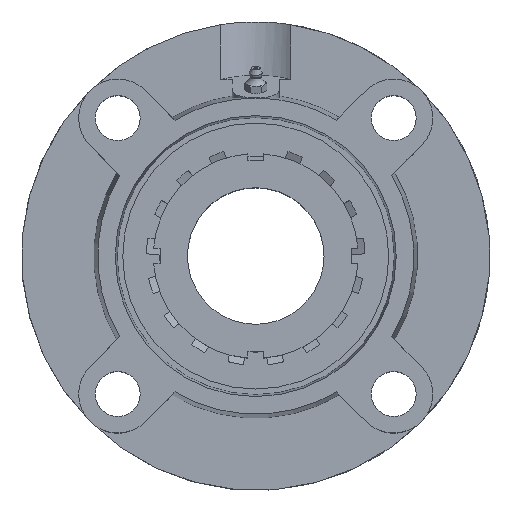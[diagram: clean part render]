
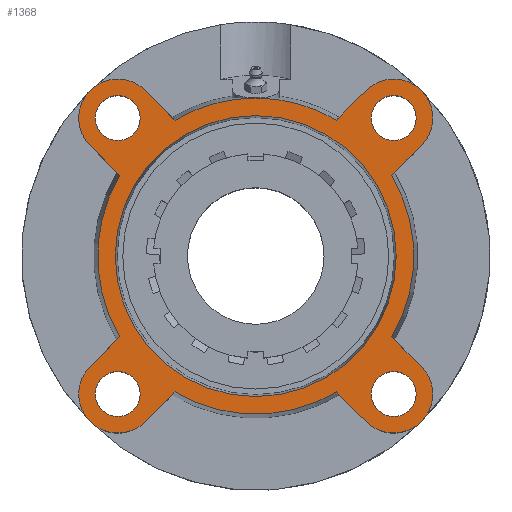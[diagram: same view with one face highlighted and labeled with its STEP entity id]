
A CAD part, top view. The second image highlights one B-rep face of the part: STEP entity #1368.
In plain terms, the highlighted planar face has unit normal (0, 0, 1).
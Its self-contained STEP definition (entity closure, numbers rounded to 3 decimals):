
#181=CARTESIAN_POINT('',(-59.211,-70.711,26.));
#182=VERTEX_POINT('',#181);
#183=CARTESIAN_POINT('',(-70.711,-70.711,26.));
#184=DIRECTION('',(0.0,0.0,-1.0));
#185=DIRECTION('',(1.0,0.0,0.0));
#186=AXIS2_PLACEMENT_3D('',#183,#184,#185);
#187=CIRCLE('',#186,11.5);
#188=EDGE_CURVE('',#182,#182,#187,.T.);
#209=CARTESIAN_POINT('',(-59.211,70.711,26.));
#210=VERTEX_POINT('',#209);
#211=CARTESIAN_POINT('',(-70.711,70.711,26.));
#212=DIRECTION('',(0.0,0.0,-1.0));
#213=DIRECTION('',(1.0,0.0,0.0));
#214=AXIS2_PLACEMENT_3D('',#211,#212,#213);
#215=CIRCLE('',#214,11.5);
#216=EDGE_CURVE('',#210,#210,#215,.T.);
#237=CARTESIAN_POINT('',(82.211,70.711,26.));
#238=VERTEX_POINT('',#237);
#239=CARTESIAN_POINT('',(70.711,70.711,26.));
#240=DIRECTION('',(0.0,0.0,-1.0));
#241=DIRECTION('',(1.0,0.0,0.0));
#242=AXIS2_PLACEMENT_3D('',#239,#240,#241);
#243=CIRCLE('',#242,11.5);
#244=EDGE_CURVE('',#238,#238,#243,.T.);
#265=CARTESIAN_POINT('',(82.211,-70.711,26.));
#266=VERTEX_POINT('',#265);
#267=CARTESIAN_POINT('',(70.711,-70.711,26.));
#268=DIRECTION('',(0.0,0.0,-1.0));
#269=DIRECTION('',(1.0,0.0,0.0));
#270=AXIS2_PLACEMENT_3D('',#267,#268,#269);
#271=CIRCLE('',#270,11.5);
#272=EDGE_CURVE('',#266,#266,#271,.T.);
#373=CARTESIAN_POINT('',(0.0,72.0,26.));
#374=VERTEX_POINT('',#373);
#375=CARTESIAN_POINT('',(0.0,0.,26.));
#376=DIRECTION('',(0.0,0.0,-1.0));
#377=DIRECTION('',(0.0,1.0,0.0));
#378=AXIS2_PLACEMENT_3D('',#375,#376,#377);
#379=CIRCLE('',#378,72.);
#380=EDGE_CURVE('',#374,#374,#379,.T.);
#666=CARTESIAN_POINT('',(0.,81.0,26.));
#667=VERTEX_POINT('',#666);
#824=CARTESIAN_POINT('',(-41.36,69.644,26.));
#825=VERTEX_POINT('',#824);
#839=CARTESIAN_POINT('',(0.0,0.,26.));
#840=DIRECTION('',(0.0,0.0,1.0));
#841=DIRECTION('',(0.0,-1.0,0.0));
#842=AXIS2_PLACEMENT_3D('',#839,#840,#841);
#843=CIRCLE('',#842,81.0);
#844=EDGE_CURVE('',#667,#825,#843,.T.);
#854=CARTESIAN_POINT('',(-41.36,-69.644,26.));
#855=VERTEX_POINT('',#854);
#871=CARTESIAN_POINT('',(-56.569,-84.853,26.));
#872=VERTEX_POINT('',#871);
#873=CARTESIAN_POINT('',(-41.36,-69.644,26.));
#874=DIRECTION('',(-0.707,-0.707,0.));
#875=VECTOR('',#874,21.508);
#876=LINE('',#873,#875);
#877=EDGE_CURVE('',#855,#872,#876,.T.);
#901=CARTESIAN_POINT('',(-69.644,41.36,26.));
#902=VERTEX_POINT('',#901);
#918=CARTESIAN_POINT('',(-84.853,56.569,26.));
#919=VERTEX_POINT('',#918);
#920=CARTESIAN_POINT('',(-69.644,41.36,26.));
#921=DIRECTION('',(-0.707,0.707,0.));
#922=VECTOR('',#921,21.508);
#923=LINE('',#920,#922);
#924=EDGE_CURVE('',#902,#919,#923,.T.);
#948=CARTESIAN_POINT('',(69.644,-41.36,26.));
#949=VERTEX_POINT('',#948);
#965=CARTESIAN_POINT('',(84.853,-56.569,26.));
#966=VERTEX_POINT('',#965);
#967=CARTESIAN_POINT('',(69.644,-41.36,26.));
#968=DIRECTION('',(0.707,-0.707,0.));
#969=VECTOR('',#968,21.508);
#970=LINE('',#967,#969);
#971=EDGE_CURVE('',#949,#966,#970,.T.);
#995=CARTESIAN_POINT('',(41.36,69.644,26.));
#996=VERTEX_POINT('',#995);
#1010=CARTESIAN_POINT('',(56.569,84.853,26.));
#1011=VERTEX_POINT('',#1010);
#1012=CARTESIAN_POINT('',(41.36,69.644,26.));
#1013=DIRECTION('',(0.707,0.707,0.));
#1014=VECTOR('',#1013,21.508);
#1015=LINE('',#1012,#1014);
#1016=EDGE_CURVE('',#996,#1011,#1015,.T.);
#1035=CARTESIAN_POINT('',(69.644,41.36,26.));
#1036=VERTEX_POINT('',#1035);
#1058=CARTESIAN_POINT('',(84.853,56.569,26.));
#1059=VERTEX_POINT('',#1058);
#1066=CARTESIAN_POINT('',(84.853,56.569,26.));
#1067=DIRECTION('',(-0.707,-0.707,0.));
#1068=VECTOR('',#1067,21.508);
#1069=LINE('',#1066,#1068);
#1070=EDGE_CURVE('',#1059,#1036,#1069,.T.);
#1080=CARTESIAN_POINT('',(-84.853,-56.569,26.));
#1081=VERTEX_POINT('',#1080);
#1082=CARTESIAN_POINT('',(-70.711,-70.711,26.));
#1083=DIRECTION('',(0.0,0.0,-1.0));
#1084=DIRECTION('',(-0.707,0.707,0.0));
#1085=AXIS2_PLACEMENT_3D('',#1082,#1083,#1084);
#1086=CIRCLE('',#1085,20.0);
#1087=EDGE_CURVE('',#872,#1081,#1086,.T.);
#1122=CARTESIAN_POINT('',(-69.644,-41.36,26.0));
#1123=VERTEX_POINT('',#1122);
#1144=CARTESIAN_POINT('',(-84.853,-56.569,26.));
#1145=DIRECTION('',(0.707,0.707,0.));
#1146=VECTOR('',#1145,21.508);
#1147=LINE('',#1144,#1146);
#1148=EDGE_CURVE('',#1081,#1123,#1147,.T.);
#1158=CARTESIAN_POINT('',(-56.569,84.853,26.));
#1159=VERTEX_POINT('',#1158);
#1160=CARTESIAN_POINT('',(-70.711,70.711,26.));
#1161=DIRECTION('',(0.0,0.0,-1.0));
#1162=DIRECTION('',(0.707,0.707,0.0));
#1163=AXIS2_PLACEMENT_3D('',#1160,#1161,#1162);
#1164=CIRCLE('',#1163,20.0);
#1165=EDGE_CURVE('',#919,#1159,#1164,.T.);
#1193=CARTESIAN_POINT('',(-56.569,84.853,26.));
#1194=DIRECTION('',(0.707,-0.707,0.));
#1195=VECTOR('',#1194,21.508);
#1196=LINE('',#1193,#1195);
#1197=EDGE_CURVE('',#1159,#825,#1196,.T.);
#1207=CARTESIAN_POINT('',(56.569,-84.853,26.));
#1208=VERTEX_POINT('',#1207);
#1209=CARTESIAN_POINT('',(70.711,-70.711,26.));
#1210=DIRECTION('',(0.0,0.0,-1.0));
#1211=DIRECTION('',(-0.707,-0.707,0.0));
#1212=AXIS2_PLACEMENT_3D('',#1209,#1210,#1211);
#1213=CIRCLE('',#1212,20.);
#1214=EDGE_CURVE('',#966,#1208,#1213,.T.);
#1249=CARTESIAN_POINT('',(41.36,-69.644,26.));
#1250=VERTEX_POINT('',#1249);
#1271=CARTESIAN_POINT('',(56.569,-84.853,26.));
#1272=DIRECTION('',(-0.707,0.707,0.));
#1273=VECTOR('',#1272,21.508);
#1274=LINE('',#1271,#1273);
#1275=EDGE_CURVE('',#1208,#1250,#1274,.T.);
#1285=CARTESIAN_POINT('',(70.711,70.711,26.));
#1286=DIRECTION('',(0.0,0.0,-1.0));
#1287=DIRECTION('',(0.707,-0.707,0.0));
#1288=AXIS2_PLACEMENT_3D('',#1285,#1286,#1287);
#1289=CIRCLE('',#1288,20.0);
#1290=EDGE_CURVE('',#1011,#1059,#1289,.T.);
#1305=CARTESIAN_POINT('',(0.0,-40.5,26.));
#1306=DIRECTION('',(0.0,0.0,1.0));
#1307=DIRECTION('',(1.0,0.0,0.0));
#1308=AXIS2_PLACEMENT_3D('',#1305,#1306,#1307);
#1309=PLANE('',#1308);
#1310=CARTESIAN_POINT('',(0.0,0.,26.));
#1311=DIRECTION('',(0.0,0.0,1.0));
#1312=DIRECTION('',(0.0,-1.0,0.0));
#1313=AXIS2_PLACEMENT_3D('',#1310,#1311,#1312);
#1314=CIRCLE('',#1313,81.0);
#1315=EDGE_CURVE('',#855,#1250,#1314,.T.);
#1316=ORIENTED_EDGE('',*,*,#1315,.T.);
#1317=ORIENTED_EDGE('',*,*,#1275,.F.);
#1318=ORIENTED_EDGE('',*,*,#1214,.F.);
#1319=ORIENTED_EDGE('',*,*,#971,.F.);
#1320=CARTESIAN_POINT('',(0.0,0.,26.));
#1321=DIRECTION('',(0.0,0.0,1.0));
#1322=DIRECTION('',(0.0,-1.0,0.0));
#1323=AXIS2_PLACEMENT_3D('',#1320,#1321,#1322);
#1324=CIRCLE('',#1323,81.0);
#1325=EDGE_CURVE('',#949,#1036,#1324,.T.);
#1326=ORIENTED_EDGE('',*,*,#1325,.T.);
#1327=ORIENTED_EDGE('',*,*,#1070,.F.);
#1328=ORIENTED_EDGE('',*,*,#1290,.F.);
#1329=ORIENTED_EDGE('',*,*,#1016,.F.);
#1330=CARTESIAN_POINT('',(0.0,0.,26.));
#1331=DIRECTION('',(0.0,0.0,1.0));
#1332=DIRECTION('',(0.0,-1.0,0.0));
#1333=AXIS2_PLACEMENT_3D('',#1330,#1331,#1332);
#1334=CIRCLE('',#1333,81.0);
#1335=EDGE_CURVE('',#996,#667,#1334,.T.);
#1336=ORIENTED_EDGE('',*,*,#1335,.T.);
#1337=ORIENTED_EDGE('',*,*,#844,.T.);
#1338=ORIENTED_EDGE('',*,*,#1197,.F.);
#1339=ORIENTED_EDGE('',*,*,#1165,.F.);
#1340=ORIENTED_EDGE('',*,*,#924,.F.);
#1341=CARTESIAN_POINT('',(0.0,0.,26.));
#1342=DIRECTION('',(0.0,0.0,1.0));
#1343=DIRECTION('',(0.0,-1.0,0.0));
#1344=AXIS2_PLACEMENT_3D('',#1341,#1342,#1343);
#1345=CIRCLE('',#1344,81.0);
#1346=EDGE_CURVE('',#902,#1123,#1345,.T.);
#1347=ORIENTED_EDGE('',*,*,#1346,.T.);
#1348=ORIENTED_EDGE('',*,*,#1148,.F.);
#1349=ORIENTED_EDGE('',*,*,#1087,.F.);
#1350=ORIENTED_EDGE('',*,*,#877,.F.);
#1351=EDGE_LOOP('',(#1316,#1317,#1318,#1319,#1326,#1327,#1328,#1329,#1336,#1337,#1338,#1339,#1340,#1347,#1348,#1349,#1350));
#1352=FACE_OUTER_BOUND('',#1351,.T.);
#1353=ORIENTED_EDGE('',*,*,#188,.T.);
#1354=EDGE_LOOP('',(#1353));
#1355=FACE_BOUND('',#1354,.T.);
#1356=ORIENTED_EDGE('',*,*,#216,.T.);
#1357=EDGE_LOOP('',(#1356));
#1358=FACE_BOUND('',#1357,.T.);
#1359=ORIENTED_EDGE('',*,*,#244,.T.);
#1360=EDGE_LOOP('',(#1359));
#1361=FACE_BOUND('',#1360,.T.);
#1362=ORIENTED_EDGE('',*,*,#272,.T.);
#1363=EDGE_LOOP('',(#1362));
#1364=FACE_BOUND('',#1363,.T.);
#1365=ORIENTED_EDGE('',*,*,#380,.T.);
#1366=EDGE_LOOP('',(#1365));
#1367=FACE_BOUND('',#1366,.T.);
#1368=ADVANCED_FACE('',(#1352,#1355,#1358,#1361,#1364,#1367),#1309,.T.);
